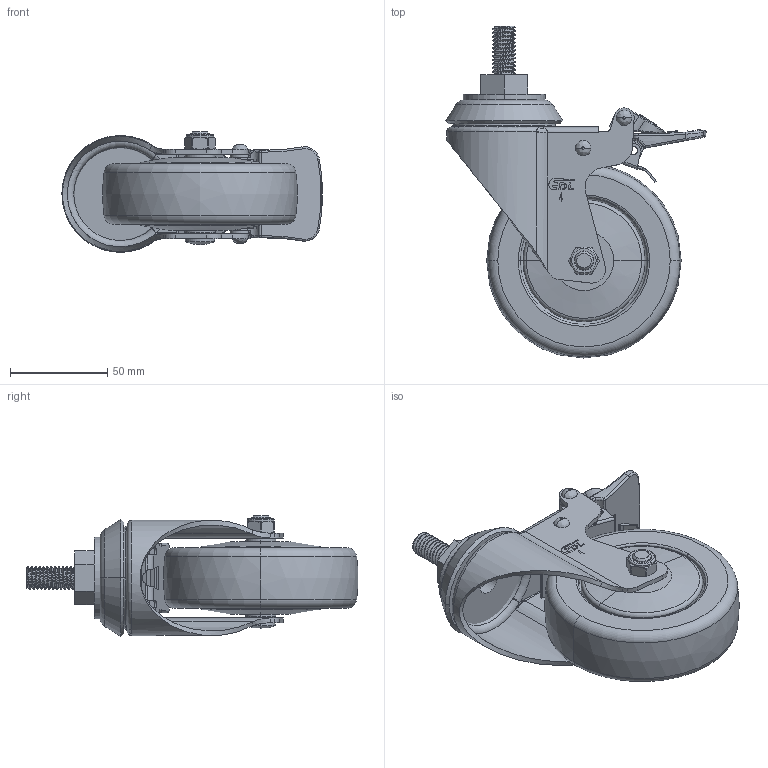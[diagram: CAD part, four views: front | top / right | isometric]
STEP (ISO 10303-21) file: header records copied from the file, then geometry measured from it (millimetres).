
FILE_DESCRIPTION((''),'2;1');
FILE_NAME('57244H-574-77_ASM','2022-02-28T',('lenovo'),(''),'PRO/ENGINEER BY PARAMETRIC TECHNOLOGY CORPORATION, 2010280','PRO/ENGINEER BY PARAMETRIC TECHNOLOGY CORPORATION, 2010280','');
FILE_SCHEMA(('CONFIG_CONTROL_DESIGN'));
Length unit declared in the file: millimetre
Products named in the file (10): 5010-053_M12; 5724-321; 5720-211; 574-77; 5710-020; 5710-031; 570-64OFF; 5734-401; 571-64ON; 57244H-574-77_ASM
Assembly tree (9 placements, depth 2):
  57244H-574-77_ASM
    5010-053_M12
    5724-321
    5720-211
    574-77
    5710-020
    5710-031
    570-64OFF
    5734-401
    571-64ON
Bounding box: 133.62 x 170.41 x 62 mm (x, y, z)
Volume: 336339.7 mm3; surface area: 85951.6 mm2
Topology: 9 solids, 9 shells, 809 faces, 2108 edges, 1334 vertices
Faces by surface type: plane 388, cylinder 220, bspline 92, cone 61, torus 44, sphere 4
Entity records: 31849 total; most frequent: CARTESIAN_POINT 12411, ORIENTED_EDGE 4204, DIRECTION 3766, EDGE_CURVE 2102, VERTEX_POINT 1332, AXIS2_PLACEMENT_3D 1311, VECTOR 1144, LINE 1144
